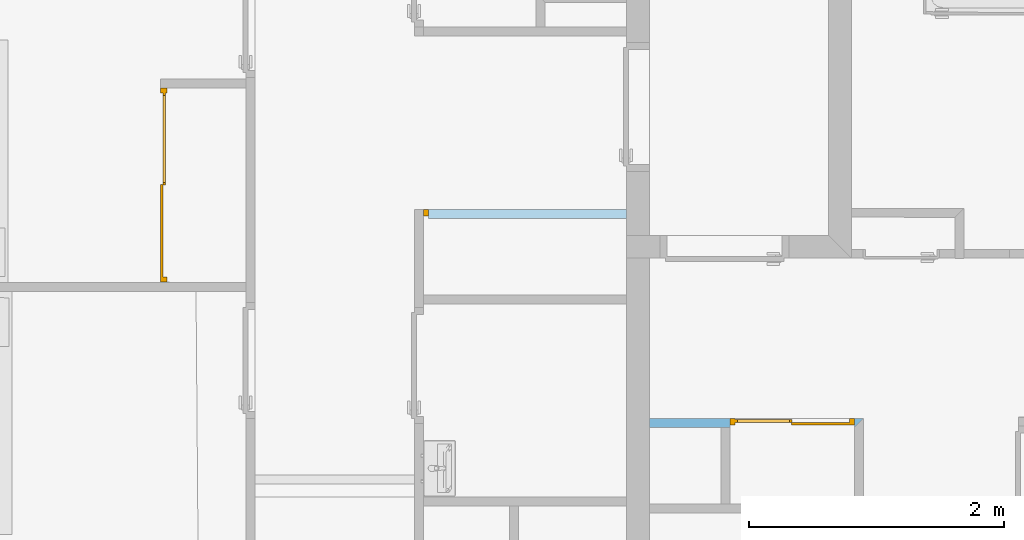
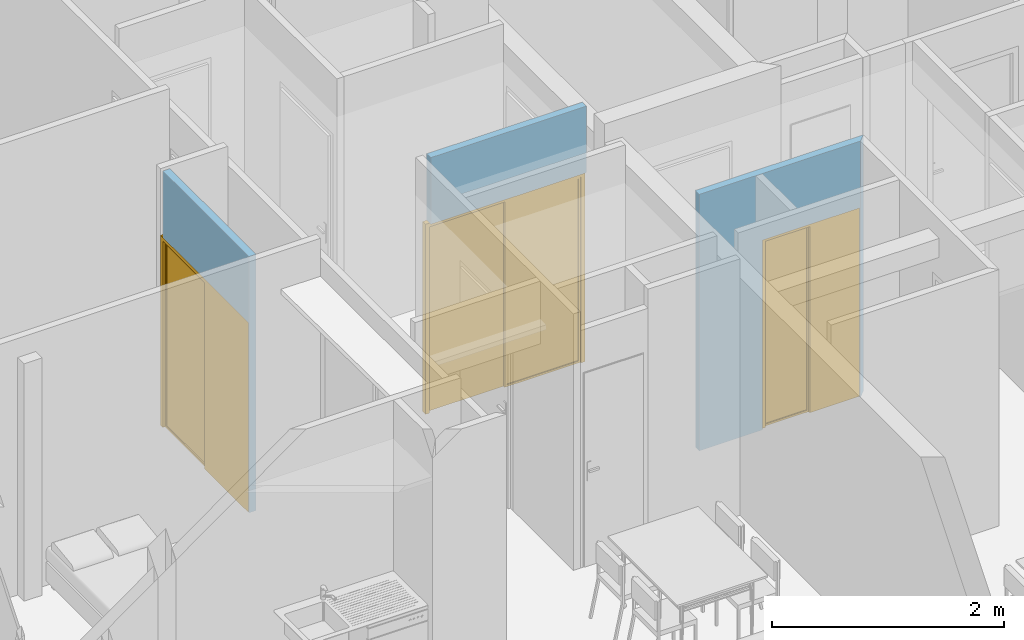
# One storey, part 106 of 171: 3 doors, 3 openings, plus 3 elements that do not belong to this part.
"""IFC2X3 building model written with IfcOpenShell, lengths in millimetres."""

from ifc_helpers import new_model, entity, si_unit, converted_unit, derived_unit, money_unit, direction, frame, origin_with_axes, origin_2d_with_axis, place, context, subcontext, project, spatial, polyline, rectangle, outline, extrude, open_shell, faceted_brep, surface_model, material, layer, layer_set, layer_usage, type_object, element, fill, save


model = new_model("IFC2X3")

# Units and contexts
model_context = context("Model", 3, precision=0.01, world=origin_with_axes(), true_north=direction((0.0, 1.0)))
body_context = subcontext(model_context, "Body", "Model", "MODEL_VIEW")
ifc_project = project(units=[si_unit("LENGTHUNIT", "METRE", prefix="MILLI"), si_unit("AREAUNIT", "SQUARE_METRE"), si_unit("VOLUMEUNIT", "CUBIC_METRE"), converted_unit("PLANEANGLEUNIT", "DEGREE", entity("IfcPlaneAngleMeasure", 0.0174532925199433), si_unit("PLANEANGLEUNIT", "RADIAN"), dimensions=[0, 0, 0, 0, 0, 0, 0]), money_unit("USD"), converted_unit("TIMEUNIT", "Year", entity("IfcTimeMeasure", 31557600.0), si_unit("TIMEUNIT", "SECOND"), dimensions=[0, 0, 1, 0, 0, 0, 0]), si_unit("MASSUNIT", "GRAM", prefix="KILO"), si_unit("THERMODYNAMICTEMPERATUREUNIT", "DEGREE_CELSIUS"), si_unit("LUMINOUSINTENSITYUNIT", "LUMEN"), si_unit("ENERGYUNIT", "JOULE", prefix="MEGA"), derived_unit("THERMALCONDUCTANCEUNIT", [(si_unit("POWERUNIT", "WATT"), 1), (si_unit("LENGTHUNIT", "METRE"), -1), (si_unit("THERMODYNAMICTEMPERATUREUNIT", "KELVIN"), -1)]), derived_unit("SPECIFICHEATCAPACITYUNIT", [(si_unit("ENERGYUNIT", "JOULE"), 1), (si_unit("MASSUNIT", "GRAM", prefix="KILO"), -1), (si_unit("THERMODYNAMICTEMPERATUREUNIT", "KELVIN"), -1)]), derived_unit("MASSDENSITYUNIT", [(si_unit("MASSUNIT", "GRAM", prefix="KILO"), 1), (si_unit("VOLUMEUNIT", "CUBIC_METRE"), -1)])], contexts=[model_context])

# Site, building, storey
site_placement = place(None, origin_with_axes())
site = spatial("IfcSite", under=ifc_project, at=site_placement, Name="Site", CompositionType="ELEMENT")
building_placement = place(site_placement, origin_with_axes())
building = spatial("IfcBuilding", under=site, at=building_placement, Name="Bâtiment", CompositionType="ELEMENT")
storey_placement = place(building_placement, frame((0.0, 0.0, 3000.0), z_axis=(0.0, 0.0, 1.0), x_axis=(1.0, 0.0, 0.0)))
storey = spatial("IfcBuildingStorey", under=building, at=storey_placement, Name="rdc", CompositionType="ELEMENT", Elevation=3000.0)

# Wall, opening, door
ifc_material = material(Name="Hachure solide 268963992")
ifc_layer = layer(ifc_material, 70.0, ventilated="UNKNOWN")
ifc_layer_set = layer_set([ifc_layer], Name="Cloison 70 0826278243")
ifc_layer_usage_1 = layer_usage(ifc_layer_set, "AXIS2", "NEGATIVE", 70.0)
wall_type = type_object("IfcWallType", Name="Cloison 70 0826278243 70", PredefinedType="NOTDEFINED")
wall_1_placement = place(storey_placement, frame((2220482.351156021, -648435.5587383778, 0.0), z_axis=(0.0, 0.0, 1.0), x_axis=(-1.073144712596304e-07, -0.9999999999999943, 0.0)))
wall_1 = element("IfcWallStandardCase", 1, at=wall_1_placement, inside=storey, type_object=wall_type, material=ifc_layer_usage_1, Name="Mur-149", context=body_context, shape_type="SweptSolid", body=[
    extrude(outline(polyline([(0.0, 0.0), (1485.227886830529, 0.0), (1485.227879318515, 70.00000000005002), (0.0, 70.00000000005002), (0.0, 0.0)])), origin_with_axes(), (0.0, 0.0, 1.0), 2700.0),
])
opening_1_placement = place(wall_1_placement, frame((719.9835981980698, 2.273736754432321e-10, 0.0), z_axis=(0.0, 0.0, 1.0), x_axis=(1.0, 0.0, 0.0)))
opening_1 = element("IfcOpeningElement", 2, at=opening_1_placement, cuts=wall_1, Name="Por-321", context=body_context, shape_type="SweptSolid", body=[
    extrude(rectangle(XDim=1519.967196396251, YDim=2000.0, at=origin_2d_with_axis()), frame((0.0, 0.0, 1000.0), z_axis=(0.0, 1.0, 0.0), x_axis=(1.0, 0.0, 0.0)), (0.0, 0.0, -1.0), 70.0),
    extrude(rectangle(XDim=1519.967196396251, YDim=2000.0, at=origin_2d_with_axis()), frame((0.0, 0.0, 1000.0), z_axis=(0.0, -1.0, 0.0), x_axis=(1.0, 0.0, 0.0)), (0.0, 0.0, -1.0), 70.0),
])
door_style = type_object("IfcDoorStyle", ConstructionType="NOTDEFINED", OperationType="NOTDEFINED", ParameterTakesPrecedence=False, Sizeable=False)
door_1_placement = place(opening_1_placement, frame((759.9835981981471, -2.273736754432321e-10, 0.0), z_axis=(0.0, 0.0, 1.0), x_axis=(-1.0, 0.0, 0.0)))
door_1 = element("IfcDoor", 3, at=door_1_placement, inside=storey, type_object=door_style, Name="Por-321", OverallHeight=2000.0, OverallWidth=1519.97, context=body_context, shape_type="SurfaceModel", body=[
    faceted_brep([(0.0, 0.0, 0.0), (0.0, 0.0, 2000.0), (1519.967196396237, 0.0, 2000.0), (1519.967196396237, 0.0, 0.0), (1479.967196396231, 1.13686837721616e-10, 0.0), (1479.967196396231, 1.13686837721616e-10, 1960.0), (40.00000000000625, 0.0, 1960.0), (40.00000000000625, 0.0, 0.0), (0.0, -49.99999999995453, 0.0), (0.0, -49.99999999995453, 2000.0), (1519.967196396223, -49.99999999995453, 2000.0), (1519.967196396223, -49.99999999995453, 0.0), (1479.967196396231, -49.99999999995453, 0.0), (1479.967196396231, -9.999999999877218, 0.0), (1479.967196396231, -9.999999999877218, 1960.0), (40.00000000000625, -9.999999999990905, 1960.0), (40.00000000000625, -9.999999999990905, 0.0), (40.00000000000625, -49.99999999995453, 0.0), (40.00000000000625, -49.99999999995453, 1960.0), (1479.967196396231, -49.99999999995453, 1960.0)], [[[0, 1, 2, 3, 4, 5, 6, 7]], [[8, 9, 1, 0]], [[9, 10, 2, 1]], [[10, 11, 3, 2]], [[3, 11, 12, 13, 4]], [[5, 4, 13, 14]], [[6, 5, 14, 15]], [[7, 6, 15, 16]], [[0, 7, 16, 17, 8]], [[17, 18, 19, 12, 11, 10, 9, 8]], [[14, 13, 12, 19]], [[15, 14, 19, 18]], [[16, 15, 18, 17]]]),
    faceted_brep([(1479.967196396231, -19.99999999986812, 0.0), (1479.967196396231, -39.99999999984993, 0.0), (759.9835981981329, -39.99999999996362, 0.0), (759.9835981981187, -19.99999999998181, 0.0), (1479.967196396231, -19.99999999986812, 1960.0), (1479.967196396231, -39.99999999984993, 1960.0), (759.9835981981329, -39.99999999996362, 1960.0), (1459.967196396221, -39.99999999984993, 20.00000000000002), (779.9835981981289, -39.99999999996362, 20.00000000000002), (779.9835981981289, -39.99999999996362, 1940.0), (1459.967196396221, -39.99999999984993, 1940.0), (759.9835981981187, -19.99999999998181, 1960.0), (1459.967196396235, -19.99999999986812, 20.00000000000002), (1459.967196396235, -19.99999999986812, 1940.0), (779.9835981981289, -19.99999999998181, 1940.0), (779.9835981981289, -19.99999999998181, 20.00000000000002)], [[[0, 1, 2, 3]], [[4, 5, 1, 0]], [[1, 5, 6, 2], [7, 8, 9, 10]], [[3, 2, 6, 11]], [[0, 3, 11, 4], [12, 13, 14, 15]], [[11, 6, 5, 4]], [[15, 8, 7, 12]], [[14, 9, 8, 15]], [[13, 10, 9, 14]], [[12, 7, 10, 13]]]),
    surface_model("IfcShellBasedSurfaceModel", [(1459.967196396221, -29.99999999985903, 20.00000000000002), (1459.967196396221, -29.99999999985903, 1940.0), (779.9835981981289, -29.99999999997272, 1940.0), (779.9835981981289, -29.99999999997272, 20.00000000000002)], [open_shell([[[0, 1, 2, 3]]])]),
    faceted_brep([(764.9835981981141, 0.0, 0.0), (764.9835981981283, -19.99999999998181, 0.0), (39.99999999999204, -19.99999999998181, 0.0), (40.00000000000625, 0.0, 0.0), (764.9835981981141, 0.0, 1960.0), (764.9835981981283, -19.99999999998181, 1960.0), (39.99999999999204, -19.99999999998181, 1960.0), (40.00000000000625, 0.0, 1960.0)], [[[0, 1, 2, 3]], [[4, 5, 1, 0]], [[1, 5, 6, 2]], [[3, 2, 6, 7]], [[0, 3, 7, 4]], [[7, 6, 5, 4]]]),
])
fill(opening_1, door_1)

ifc_layer_usage_2 = layer_usage(ifc_layer_set, "AXIS2", "NEGATIVE", 70.0)
wall_2_placement = place(storey_placement, frame((2224132.318310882, -649348.3834312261, 0.0), z_axis=(0.0, 0.0, 1.0), x_axis=(-1.0, 0.0, 0.0)))
wall_2 = element("IfcWallStandardCase", 4, at=wall_2_placement, inside=storey, type_object=wall_type, material=ifc_layer_usage_2, Name="Mur-149", context=body_context, shape_type="SweptSolid", body=[
    extrude(outline(polyline([(0.0, 0.0), (1549.967188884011, 0.0), (1549.967188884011, 69.99999999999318), (0.0, 69.99999999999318), (0.0, 0.0)])), origin_with_axes(), (0.0, 0.0, 1.0), 2700.0),
])
opening_2_placement = place(wall_2_placement, frame((794.9835944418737, 0.0, 0.0), z_axis=(0.0, 0.0, 1.0), x_axis=(1.0, 0.0, 0.0)))
opening_2 = element("IfcOpeningElement", 5, at=opening_2_placement, cuts=wall_2, Name="Por-321", context=body_context, shape_type="SweptSolid", body=[
    extrude(rectangle(XDim=1589.967188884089, YDim=2000.0, at=origin_2d_with_axis()), frame((0.0, 0.0, 1000.0), z_axis=(0.0, 1.0, 0.0), x_axis=(1.0, 0.0, 0.0)), (0.0, 0.0, -1.0), 70.0),
    extrude(rectangle(XDim=1589.967188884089, YDim=2000.0, at=origin_2d_with_axis()), frame((0.0, 0.0, 1000.0), z_axis=(0.0, -1.0, 0.0), x_axis=(1.0, 0.0, 0.0)), (0.0, 0.0, -1.0), 70.0),
])
door_2_placement = place(opening_2_placement, frame((794.9835944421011, 0.0, 0.0), z_axis=(0.0, 0.0, 1.0), x_axis=(-1.0, 0.0, 0.0)))
door_2 = element("IfcDoor", 6, at=door_2_placement, inside=storey, type_object=door_style, Name="Por-321", OverallHeight=2000.0, OverallWidth=1589.97, context=body_context, shape_type="SurfaceModel", body=[
    faceted_brep([(0.0, 0.0, 0.0), (0.0, 0.0, 2000.0), (1589.967188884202, 0.0, 2000.0), (1589.967188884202, 0.0, 0.0), (1549.967188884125, 0.0, 0.0), (1549.967188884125, 0.0, 1960.0), (40.00000000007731, 0.0, 1960.0), (40.00000000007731, 0.0, 0.0), (0.0, -49.99999999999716, 0.0), (0.0, -49.99999999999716, 2000.0), (1589.967188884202, -49.99999999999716, 2000.0), (1589.967188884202, -49.99999999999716, 0.0), (1549.967188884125, -49.99999999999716, 0.0), (1549.967188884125, -10.00000000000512, 0.0), (1549.967188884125, -10.00000000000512, 1960.0), (40.00000000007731, -10.00000000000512, 1960.0), (40.00000000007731, -10.00000000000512, 0.0), (40.00000000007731, -49.99999999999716, 0.0), (40.00000000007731, -49.99999999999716, 1960.0), (1549.967188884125, -49.99999999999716, 1960.0)], [[[0, 1, 2, 3, 4, 5, 6, 7]], [[8, 9, 1, 0]], [[9, 10, 2, 1]], [[10, 11, 3, 2]], [[3, 11, 12, 13, 4]], [[5, 4, 13, 14]], [[6, 5, 14, 15]], [[7, 6, 15, 16]], [[0, 7, 16, 17, 8]], [[17, 18, 19, 12, 11, 10, 9, 8]], [[14, 13, 12, 19]], [[15, 14, 19, 18]], [[16, 15, 18, 17]]]),
    faceted_brep([(1549.967188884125, -19.99999999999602, 0.0), (1549.967188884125, -40.00000000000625, 0.0), (794.9835944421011, -40.00000000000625, 0.0), (794.9835944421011, -19.99999999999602, 0.0), (1549.967188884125, -19.99999999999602, 1960.0), (1549.967188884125, -40.00000000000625, 1960.0), (794.9835944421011, -40.00000000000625, 1960.0), (1529.967188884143, -40.00000000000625, 20.00000000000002), (814.9835944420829, -40.00000000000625, 20.00000000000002), (814.9835944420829, -40.00000000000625, 1940.0), (1529.967188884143, -40.00000000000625, 1940.0), (794.9835944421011, -19.99999999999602, 1960.0), (1529.967188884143, -19.99999999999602, 20.00000000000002), (1529.967188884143, -19.99999999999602, 1940.0), (814.9835944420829, -19.99999999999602, 1940.0), (814.9835944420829, -19.99999999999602, 20.00000000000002)], [[[0, 1, 2, 3]], [[4, 5, 1, 0]], [[1, 5, 6, 2], [7, 8, 9, 10]], [[3, 2, 6, 11]], [[0, 3, 11, 4], [12, 13, 14, 15]], [[11, 6, 5, 4]], [[15, 8, 7, 12]], [[14, 9, 8, 15]], [[13, 10, 9, 14]], [[12, 7, 10, 13]]]),
    surface_model("IfcShellBasedSurfaceModel", [(1529.967188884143, -30.00000000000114, 20.00000000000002), (1529.967188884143, -30.00000000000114, 1940.0), (814.9835944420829, -30.00000000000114, 1940.0), (814.9835944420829, -30.00000000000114, 20.00000000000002)], [open_shell([[[0, 1, 2, 3]]])]),
    faceted_brep([(799.9835944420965, 0.0, 0.0), (799.9835944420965, -19.99999999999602, 0.0), (40.00000000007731, -19.99999999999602, 0.0), (40.00000000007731, 0.0, 0.0), (799.9835944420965, 0.0, 1960.0), (799.9835944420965, -19.99999999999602, 1960.0), (40.00000000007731, -19.99999999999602, 1960.0), (40.00000000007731, 0.0, 1960.0)], [[[0, 1, 2, 3]], [[4, 5, 1, 0]], [[1, 5, 6, 2]], [[3, 2, 6, 7]], [[0, 3, 7, 4]], [[7, 6, 5, 4]]]),
])
fill(opening_2, door_2)

ifc_layer_usage_3 = layer_usage(ifc_layer_set, "AXIS2", "NEGATIVE", 70.0)
wall_3_placement = place(storey_placement, frame((2224312.35112016, -651054.3517134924, 0.0), z_axis=(0.0, 0.0, 1.0), x_axis=(1.0, 0.0, 0.0)))
wall_3 = element("IfcWallStandardCase", 7, at=wall_3_placement, inside=storey, type_object=wall_type, material=ifc_layer_usage_3, Name="Mur-149", context=body_context, shape_type="SweptSolid", body=[
    extrude(outline(polyline([(-1.13686837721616e-10, 0.0), (1604.471851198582, 0.0), (1674.471851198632, 69.99999999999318), (0.0003390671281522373, 69.99999999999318), (-1.13686837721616e-10, 0.0)])), origin_with_axes(), (0.0, 0.0, 1.0), 2700.0),
])
opening_3_placement = place(wall_3_placement, frame((1116.438783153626, 0.0, 0.0), z_axis=(0.0, 0.0, 1.0), x_axis=(1.0, 0.0, 0.0)))
opening_3 = element("IfcOpeningElement", 8, at=opening_3_placement, cuts=wall_3, Name="Por-325", context=body_context, shape_type="SweptSolid", body=[
    extrude(rectangle(XDim=976.0661360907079, YDim=2000.0, at=origin_2d_with_axis()), frame((0.0, 70.00000000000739, 1000.0), z_axis=(0.0, -1.0, 0.0), x_axis=(1.0, 0.0, 0.0)), (0.0, 0.0, -1.0), 70.0),
    extrude(rectangle(XDim=976.0661360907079, YDim=2000.0, at=origin_2d_with_axis()), frame((0.0, 70.00000000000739, 1000.0), z_axis=(0.0, 1.0, 0.0), x_axis=(1.0, 0.0, 0.0)), (0.0, 0.0, -1.0), 70.0),
])
door_3_placement = place(opening_3_placement, frame((488.0330680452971, 0.0, 0.0), z_axis=(0.0, 0.0, 1.0), x_axis=(-1.0, 0.0, 0.0)))
door_3 = element("IfcDoor", 9, at=door_3_placement, inside=storey, type_object=door_style, Name="Por-325", OverallHeight=2000.0, OverallWidth=976.066, context=body_context, shape_type="SurfaceModel", body=[
    faceted_brep([(0.0, -20.00000000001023, 0.0), (0.0, -20.00000000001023, 2000.0), (976.0661360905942, -19.99999999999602, 2000.0), (976.0661360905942, -19.99999999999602, 0.0), (936.0661360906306, -19.99999999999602, 0.0), (936.0661360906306, -19.99999999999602, 1960.0), (39.99999999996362, -20.00000000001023, 1960.0), (39.99999999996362, -20.00000000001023, 0.0), (0.0, -70.00000000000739, 0.0), (0.0, -70.00000000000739, 2000.0), (976.0661360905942, -69.99999999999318, 2000.0), (976.0661360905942, -69.99999999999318, 0.0), (936.0661360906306, -69.99999999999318, 0.0), (936.0661360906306, -30.00000000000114, 0.0), (936.0661360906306, -30.00000000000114, 1960.0), (39.99999999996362, -30.00000000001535, 1960.0), (39.99999999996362, -30.00000000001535, 0.0), (39.99999999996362, -70.00000000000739, 0.0), (39.99999999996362, -70.00000000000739, 1960.0), (936.0661360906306, -69.99999999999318, 1960.0)], [[[0, 1, 2, 3, 4, 5, 6, 7]], [[8, 9, 1, 0]], [[9, 10, 2, 1]], [[10, 11, 3, 2]], [[3, 11, 12, 13, 4]], [[5, 4, 13, 14]], [[6, 5, 14, 15]], [[7, 6, 15, 16]], [[0, 7, 16, 17, 8]], [[17, 18, 19, 12, 11, 10, 9, 8]], [[14, 13, 12, 19]], [[15, 14, 19, 18]], [[16, 15, 18, 17]]]),
    faceted_brep([(936.0661360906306, -39.99999999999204, 0.0), (936.0661360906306, -60.00000000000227, 0.0), (488.0330680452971, -60.00000000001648, 0.0), (488.0330680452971, -40.00000000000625, 0.0), (936.0661360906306, -39.99999999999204, 1960.0), (936.0661360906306, -60.00000000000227, 1960.0), (488.0330680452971, -60.00000000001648, 1960.0), (916.0661360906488, -60.00000000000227, 20.00000000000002), (508.0330680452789, -60.00000000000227, 20.00000000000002), (508.0330680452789, -60.00000000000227, 1940.0), (916.0661360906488, -60.00000000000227, 1940.0), (488.0330680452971, -40.00000000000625, 1960.0), (916.0661360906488, -39.99999999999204, 20.00000000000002), (916.0661360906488, -39.99999999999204, 1940.0), (508.0330680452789, -39.99999999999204, 1940.0), (508.0330680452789, -39.99999999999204, 20.00000000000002)], [[[0, 1, 2, 3]], [[4, 5, 1, 0]], [[1, 5, 6, 2], [7, 8, 9, 10]], [[3, 2, 6, 11]], [[0, 3, 11, 4], [12, 13, 14, 15]], [[11, 6, 5, 4]], [[15, 8, 7, 12]], [[14, 9, 8, 15]], [[13, 10, 9, 14]], [[12, 7, 10, 13]]]),
    surface_model("IfcShellBasedSurfaceModel", [(916.0661360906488, -49.99999999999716, 20.00000000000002), (916.0661360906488, -49.99999999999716, 1940.0), (508.0330680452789, -49.99999999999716, 1940.0), (508.0330680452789, -49.99999999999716, 20.00000000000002)], [open_shell([[[0, 1, 2, 3]]])]),
    faceted_brep([(493.0330680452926, -20.00000000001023, 0.0), (493.0330680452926, -40.00000000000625, 0.0), (39.99999999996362, -40.00000000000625, 0.0), (39.99999999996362, -20.00000000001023, 0.0), (493.0330680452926, -20.00000000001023, 1960.0), (493.0330680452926, -40.00000000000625, 1960.0), (39.99999999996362, -40.00000000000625, 1960.0), (39.99999999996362, -20.00000000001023, 1960.0)], [[[0, 1, 2, 3]], [[4, 5, 1, 0]], [[1, 5, 6, 2]], [[3, 2, 6, 7]], [[0, 3, 7, 4]], [[7, 6, 5, 4]]]),
])
fill(opening_3, door_3)

save(model, "model.ifc")
